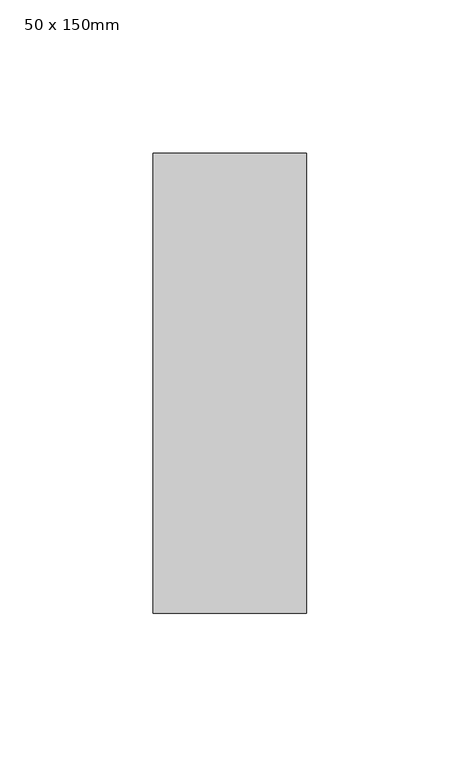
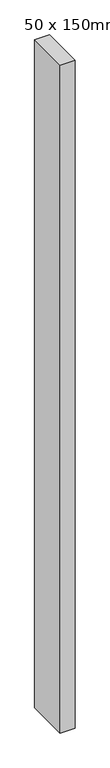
"""IFC4 building model written with IfcOpenShell, lengths in millimetres: member geometry, Prostokątny szpros : 50 x 150mm."""

from ifc_helpers import new_model, si_unit, frame, origin, place, context, project, spatial, polyline, outline, extrude, source, transform, mapped, element, save


def member_50_x_150mm_6225e4e3(model_context):
    return source(origin(), model_context, "Body", "SweptSolid", [
        extrude(outline(polyline([(25.0, 75.0), (25.0, -75.0), (-25.0, -75.0), (-25.0, 75.0), (25.0, 75.0)])), frame((0.0, 0.0, -2400.0), z_axis=(0.0, 0.0, 1.0), x_axis=(1.0, 0.0, 0.0)), (0.0, 0.0, 1.0), 2400.0),
    ])


if __name__ == "__main__":
    model = new_model("IFC4")
    model_context = context("Model", 3, world=origin())
    ifc_project = project(units=[si_unit("LENGTHUNIT", "METRE", prefix="MILLI")], contexts=[model_context])
    site = spatial("IfcSite", under=ifc_project)
    building = spatial("IfcBuilding", under=site)
    placement = place(None, origin())
    member_50_x_150mm_shape = member_50_x_150mm_6225e4e3(model_context)
    element("IfcMember", 1, ObjectType="Prostokątny szpros : 50 x 150mm", at=placement, inside=building, context=model_context, shape_type="MappedRepresentation", body=[
        mapped(member_50_x_150mm_shape, transform((0.0, 0.0, 0.0), x_axis=(1.0, 0.0, 0.0), y_axis=(0.0, 1.0, 0.0), z_axis=(0.0, 0.0, 1.0))),
    ])
    save(model, "model.ifc")
